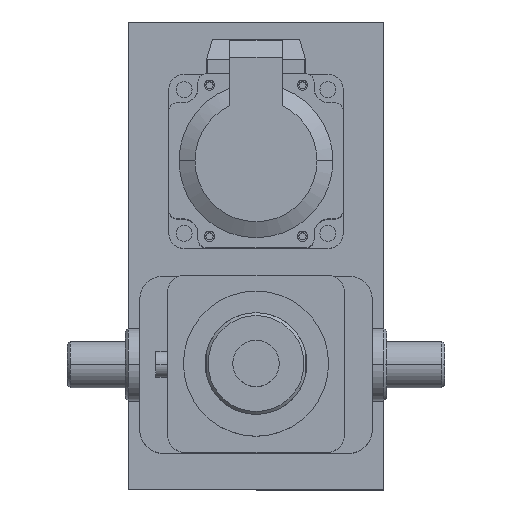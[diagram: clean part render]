
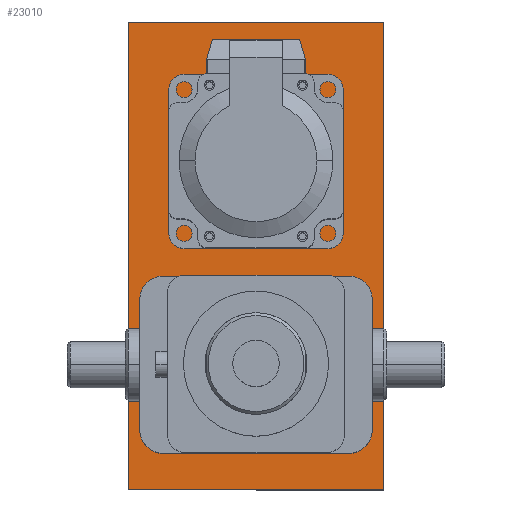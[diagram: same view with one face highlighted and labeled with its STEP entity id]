
A CAD part, top view. The second image highlights one B-rep face of the part: STEP entity #23010.
In plain terms, the highlighted planar face has unit normal (0, 0, 1).
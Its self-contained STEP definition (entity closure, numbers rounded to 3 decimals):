
#109 = EDGE_CURVE ( 'NONE', #13719, #22233, #21741, .T. ) ;
#119 = ORIENTED_EDGE ( 'NONE', *, *, #4402, .T. ) ;
#160 = VERTEX_POINT ( 'NONE', #16695 ) ;
#211 = CARTESIAN_POINT ( 'NONE',  ( 32., -30.5, -31. ) ) ;
#485 = EDGE_CURVE ( 'NONE', #22807, #17535, #16449, .T. ) ;
#598 = LINE ( 'NONE', #11514, #20042 ) ;
#804 = VERTEX_POINT ( 'NONE', #20671 ) ;
#819 = DIRECTION ( 'NONE',  ( 0., 0., -1. ) ) ;
#974 = VECTOR ( 'NONE', #10450, 1000. ) ;
#1034 = CARTESIAN_POINT ( 'NONE',  ( 32., -22.5, -31. ) ) ;
#1228 = DIRECTION ( 'NONE',  ( 0., 0., 1. ) ) ;
#1238 = DIRECTION ( 'NONE',  ( 0., 0., -1. ) ) ;
#1697 = EDGE_CURVE ( 'NONE', #18797, #2814, #5127, .T. ) ;
#2183 = CARTESIAN_POINT ( 'NONE',  ( 44., 118., -31. ) ) ;
#2202 = ORIENTED_EDGE ( 'NONE', *, *, #5707, .F. ) ;
#2210 = AXIS2_PLACEMENT_3D ( 'NONE', #1034, #15817, #14240 ) ;
#2362 = EDGE_LOOP ( 'NONE', ( #15681, #18013 ) ) ;
#2592 = VECTOR ( 'NONE', #3510, 1000. ) ;
#2598 = EDGE_CURVE ( 'NONE', #804, #160, #12453, .T. ) ;
#2608 = DIRECTION ( 'NONE',  ( 0., 0., 1. ) ) ;
#2814 = VERTEX_POINT ( 'NONE', #22764 ) ;
#3114 = EDGE_CURVE ( 'NONE', #22233, #13719, #6527, .T. ) ;
#3510 = DIRECTION ( 'NONE',  ( 0., 1., 0. ) ) ;
#3587 = VECTOR ( 'NONE', #10812, 1000. ) ;
#3760 = DIRECTION ( 'NONE',  ( 0., -1., 0. ) ) ;
#3861 = ORIENTED_EDGE ( 'NONE', *, *, #1697, .T. ) ;
#4034 = EDGE_LOOP ( 'NONE', ( #21127, #12053, #2202, #20749 ) ) ;
#4112 = CIRCLE ( 'NONE', #22872, 8. ) ;
#4402 = EDGE_CURVE ( 'NONE', #21468, #21266, #598, .T. ) ;
#4573 = DIRECTION ( 'NONE',  ( 1., 0., 0. ) ) ;
#4601 = CARTESIAN_POINT ( 'NONE',  ( -40., 22.5, -31. ) ) ;
#5005 = ORIENTED_EDGE ( 'NONE', *, *, #14898, .T. ) ;
#5127 = CIRCLE ( 'NONE', #18367, 8. ) ;
#5205 = CARTESIAN_POINT ( 'NONE',  ( 0., 70., -31. ) ) ;
#5707 = EDGE_CURVE ( 'NONE', #160, #22807, #8500, .T. ) ;
#5873 = CARTESIAN_POINT ( 'NONE',  ( -40., -22.5, -31. ) ) ;
#6238 = FACE_OUTER_BOUND ( 'NONE', #4034, .T. ) ;
#6406 = DIRECTION ( 'NONE',  ( 1., 0., 0. ) ) ;
#6527 = CIRCLE ( 'NONE', #20122, 9.409 ) ;
#6723 = LINE ( 'NONE', #20916, #8499 ) ;
#6919 = CARTESIAN_POINT ( 'NONE',  ( 44., -43., -31. ) ) ;
#7266 = DIRECTION ( 'NONE',  ( 0., 0., -1. ) ) ;
#7578 = ORIENTED_EDGE ( 'NONE', *, *, #18129, .T. ) ;
#8499 = VECTOR ( 'NONE', #3760, 1000. ) ;
#8500 = LINE ( 'NONE', #22245, #2592 ) ;
#9144 = EDGE_CURVE ( 'NONE', #19236, #16761, #20131, .T. ) ;
#9789 = AXIS2_PLACEMENT_3D ( 'NONE', #5205, #10818, #10980 ) ;
#10341 = CARTESIAN_POINT ( 'NONE',  ( 32., 30.5, -31. ) ) ;
#10365 = CARTESIAN_POINT ( 'NONE',  ( 0., 0., -31. ) ) ;
#10450 = DIRECTION ( 'NONE',  ( 0., -1., 0. ) ) ;
#10812 = DIRECTION ( 'NONE',  ( -1., 0., 0. ) ) ;
#10818 = DIRECTION ( 'NONE',  ( 0., 0., 1. ) ) ;
#10980 = DIRECTION ( 'NONE',  ( 1., 0., 0. ) ) ;
#10990 = LINE ( 'NONE', #21742, #974 ) ;
#11514 = CARTESIAN_POINT ( 'NONE',  ( 32., -30.5, -31. ) ) ;
#11600 = VERTEX_POINT ( 'NONE', #15206 ) ;
#11942 = ORIENTED_EDGE ( 'NONE', *, *, #9144, .T. ) ;
#12053 = ORIENTED_EDGE ( 'NONE', *, *, #485, .F. ) ;
#12280 = VECTOR ( 'NONE', #21380, 1000. ) ;
#12453 = LINE ( 'NONE', #6919, #3587 ) ;
#12744 = ORIENTED_EDGE ( 'NONE', *, *, #19239, .T. ) ;
#13017 = FACE_BOUND ( 'NONE', #2362, .T. ) ;
#13719 = VERTEX_POINT ( 'NONE', #20712 ) ;
#13853 = CARTESIAN_POINT ( 'NONE',  ( 32., 22.5, -31. ) ) ;
#14083 = LINE ( 'NONE', #10341, #14696 ) ;
#14113 = CIRCLE ( 'NONE', #2210, 8. ) ;
#14240 = DIRECTION ( 'NONE',  ( 1., 0., 0. ) ) ;
#14277 = DIRECTION ( 'NONE',  ( 1., 0., 0. ) ) ;
#14388 = AXIS2_PLACEMENT_3D ( 'NONE', #10365, #2608, #6406 ) ;
#14696 = VECTOR ( 'NONE', #4573, 1000. ) ;
#14897 = CARTESIAN_POINT ( 'NONE',  ( -32., 22.5, -31. ) ) ;
#14898 = EDGE_CURVE ( 'NONE', #2814, #19236, #14083, .T. ) ;
#15029 = CARTESIAN_POINT ( 'NONE',  ( -44., 118., -31. ) ) ;
#15206 = CARTESIAN_POINT ( 'NONE',  ( 40., -22.5, -31. ) ) ;
#15681 = ORIENTED_EDGE ( 'NONE', *, *, #109, .F. ) ;
#15703 = FACE_BOUND ( 'NONE', #20352, .T. ) ;
#15817 = DIRECTION ( 'NONE',  ( 0., 0., -1. ) ) ;
#16449 = LINE ( 'NONE', #21227, #12280 ) ;
#16695 = CARTESIAN_POINT ( 'NONE',  ( -44., -43., -31. ) ) ;
#16761 = VERTEX_POINT ( 'NONE', #24229 ) ;
#17119 = EDGE_CURVE ( 'NONE', #17535, #804, #10990, .T. ) ;
#17361 = CARTESIAN_POINT ( 'NONE',  ( -9.409, 70., -31. ) ) ;
#17535 = VERTEX_POINT ( 'NONE', #2183 ) ;
#18013 = ORIENTED_EDGE ( 'NONE', *, *, #3114, .F. ) ;
#18129 = EDGE_CURVE ( 'NONE', #21672, #18797, #21220, .T. ) ;
#18234 = DIRECTION ( 'NONE',  ( -1., 0., 0. ) ) ;
#18367 = AXIS2_PLACEMENT_3D ( 'NONE', #14897, #7266, #20467 ) ;
#18415 = EDGE_CURVE ( 'NONE', #21266, #21672, #4112, .T. ) ;
#18797 = VERTEX_POINT ( 'NONE', #4601 ) ;
#19236 = VERTEX_POINT ( 'NONE', #22644 ) ;
#19239 = EDGE_CURVE ( 'NONE', #16761, #11600, #6723, .T. ) ;
#19516 = DIRECTION ( 'NONE',  ( 1., 0., 0. ) ) ;
#19554 = EDGE_CURVE ( 'NONE', #11600, #21468, #14113, .T. ) ;
#20042 = VECTOR ( 'NONE', #21146, 1000. ) ;
#20122 = AXIS2_PLACEMENT_3D ( 'NONE', #21925, #1228, #14277 ) ;
#20131 = CIRCLE ( 'NONE', #22159, 8. ) ;
#20158 = CARTESIAN_POINT ( 'NONE',  ( -32., -30.5, -31. ) ) ;
#20352 = EDGE_LOOP ( 'NONE', ( #119, #23051, #7578, #3861, #5005, #11942, #12744, #22826 ) ) ;
#20467 = DIRECTION ( 'NONE',  ( 1., 0., 0. ) ) ;
#20671 = CARTESIAN_POINT ( 'NONE',  ( 44., -43., -31. ) ) ;
#20712 = CARTESIAN_POINT ( 'NONE',  ( 9.409, 70., -31. ) ) ;
#20749 = ORIENTED_EDGE ( 'NONE', *, *, #2598, .F. ) ;
#20916 = CARTESIAN_POINT ( 'NONE',  ( 40., -22.5, -31. ) ) ;
#21127 = ORIENTED_EDGE ( 'NONE', *, *, #17119, .F. ) ;
#21146 = DIRECTION ( 'NONE',  ( -1., 0., 0. ) ) ;
#21220 = LINE ( 'NONE', #5873, #21244 ) ;
#21227 = CARTESIAN_POINT ( 'NONE',  ( 44., 118., -31. ) ) ;
#21244 = VECTOR ( 'NONE', #22939, 1000. ) ;
#21266 = VERTEX_POINT ( 'NONE', #20158 ) ;
#21380 = DIRECTION ( 'NONE',  ( 1., 0., 0. ) ) ;
#21468 = VERTEX_POINT ( 'NONE', #211 ) ;
#21661 = PLANE ( 'NONE',  #14388 ) ;
#21672 = VERTEX_POINT ( 'NONE', #22887 ) ;
#21741 = CIRCLE ( 'NONE', #9789, 9.409 ) ;
#21742 = CARTESIAN_POINT ( 'NONE',  ( 44., -43., -31. ) ) ;
#21925 = CARTESIAN_POINT ( 'NONE',  ( 0., 70., -31. ) ) ;
#21934 = CARTESIAN_POINT ( 'NONE',  ( -32., -22.5, -31. ) ) ;
#22159 = AXIS2_PLACEMENT_3D ( 'NONE', #13853, #819, #19516 ) ;
#22233 = VERTEX_POINT ( 'NONE', #17361 ) ;
#22245 = CARTESIAN_POINT ( 'NONE',  ( -44., -43., -31. ) ) ;
#22644 = CARTESIAN_POINT ( 'NONE',  ( 32., 30.5, -31. ) ) ;
#22764 = CARTESIAN_POINT ( 'NONE',  ( -32., 30.5, -31. ) ) ;
#22807 = VERTEX_POINT ( 'NONE', #15029 ) ;
#22826 = ORIENTED_EDGE ( 'NONE', *, *, #19554, .T. ) ;
#22872 = AXIS2_PLACEMENT_3D ( 'NONE', #21934, #1238, #18234 ) ;
#22887 = CARTESIAN_POINT ( 'NONE',  ( -40., -22.5, -31. ) ) ;
#22939 = DIRECTION ( 'NONE',  ( 0., 1., 0. ) ) ;
#23010 = ADVANCED_FACE ( 'NONE', ( #13017, #15703, #6238 ), #21661, .T. ) ;
#23051 = ORIENTED_EDGE ( 'NONE', *, *, #18415, .T. ) ;
#24229 = CARTESIAN_POINT ( 'NONE',  ( 40., 22.5, -31. ) ) ;
